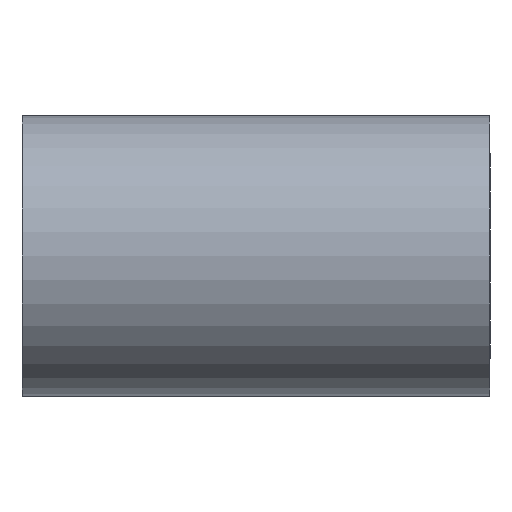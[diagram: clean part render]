
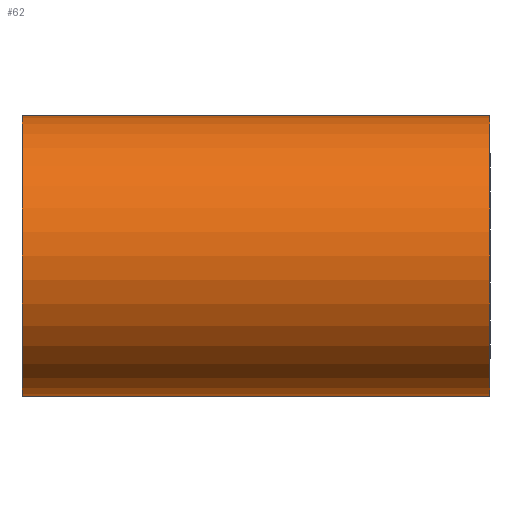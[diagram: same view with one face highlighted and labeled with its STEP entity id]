
A CAD part, left-side view. The second image highlights one B-rep face of the part: STEP entity #62.
In plain terms, the highlighted cylindrical face has radius 7.5 mm (diameter 15 mm), a partial arc.
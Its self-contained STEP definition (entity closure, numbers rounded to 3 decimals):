
#1 = EDGE_CURVE ( 'NONE', #615, #236, #933, .T. ) ;
#51 = FACE_OUTER_BOUND ( 'NONE', #371, .T. ) ;
#62 = ADVANCED_FACE ( 'NONE', ( #51 ), #925, .T. ) ;
#83 = AXIS2_PLACEMENT_3D ( 'NONE', #313, #923, #848 ) ;
#84 = CARTESIAN_POINT ( 'NONE',  ( 0., 12.5, 7.5 ) ) ;
#127 = EDGE_CURVE ( 'NONE', #615, #162, #271, .T. ) ;
#136 = ORIENTED_EDGE ( 'NONE', *, *, #1, .T. ) ;
#162 = VERTEX_POINT ( 'NONE', #203 ) ;
#203 = CARTESIAN_POINT ( 'NONE',  ( 0., 12.5, -7.5 ) ) ;
#212 = VERTEX_POINT ( 'NONE', #84 ) ;
#236 = VERTEX_POINT ( 'NONE', #819 ) ;
#261 = DIRECTION ( 'NONE',  ( 0., 0., 1. ) ) ;
#265 = EDGE_CURVE ( 'NONE', #236, #212, #893, .T. ) ;
#271 = LINE ( 'NONE', #275, #607 ) ;
#275 = CARTESIAN_POINT ( 'NONE',  ( 0., 0., -7.5 ) ) ;
#293 = AXIS2_PLACEMENT_3D ( 'NONE', #633, #405, #261 ) ;
#305 = CARTESIAN_POINT ( 'NONE',  ( 0., 0., 7.5 ) ) ;
#313 = CARTESIAN_POINT ( 'NONE',  ( 0., 12.5, 0. ) ) ;
#371 = EDGE_LOOP ( 'NONE', ( #482, #136, #658, #534 ) ) ;
#405 = DIRECTION ( 'NONE',  ( 0., 1., 0. ) ) ;
#418 = DIRECTION ( 'NONE',  ( 0., 1., 0. ) ) ;
#459 = CARTESIAN_POINT ( 'NONE',  ( 0., -12.5, -7.5 ) ) ;
#482 = ORIENTED_EDGE ( 'NONE', *, *, #127, .F. ) ;
#493 = VECTOR ( 'NONE', #602, 1000. ) ;
#534 = ORIENTED_EDGE ( 'NONE', *, *, #739, .F. ) ;
#553 = CARTESIAN_POINT ( 'NONE',  ( 0., 0., 0. ) ) ;
#556 = DIRECTION ( 'NONE',  ( 0., 0., 1. ) ) ;
#602 = DIRECTION ( 'NONE',  ( 0., 1., 0. ) ) ;
#607 = VECTOR ( 'NONE', #418, 1000. ) ;
#615 = VERTEX_POINT ( 'NONE', #459 ) ;
#623 = CIRCLE ( 'NONE', #83, 7.5 ) ;
#633 = CARTESIAN_POINT ( 'NONE',  ( 0., -12.5, 0. ) ) ;
#658 = ORIENTED_EDGE ( 'NONE', *, *, #265, .T. ) ;
#684 = AXIS2_PLACEMENT_3D ( 'NONE', #553, #773, #556 ) ;
#739 = EDGE_CURVE ( 'NONE', #162, #212, #623, .T. ) ;
#773 = DIRECTION ( 'NONE',  ( 0., 1., 0. ) ) ;
#819 = CARTESIAN_POINT ( 'NONE',  ( 0., -12.5, 7.5 ) ) ;
#848 = DIRECTION ( 'NONE',  ( 0., 0., 1. ) ) ;
#893 = LINE ( 'NONE', #305, #493 ) ;
#923 = DIRECTION ( 'NONE',  ( 0., 1., 0. ) ) ;
#925 = CYLINDRICAL_SURFACE ( 'NONE', #684, 7.5 ) ;
#933 = CIRCLE ( 'NONE', #293, 7.5 ) ;
